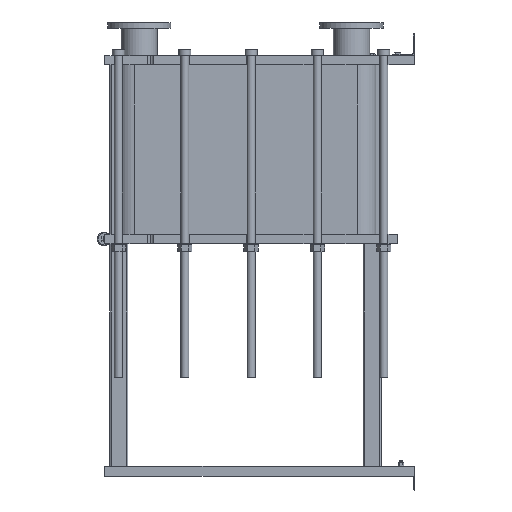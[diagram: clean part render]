
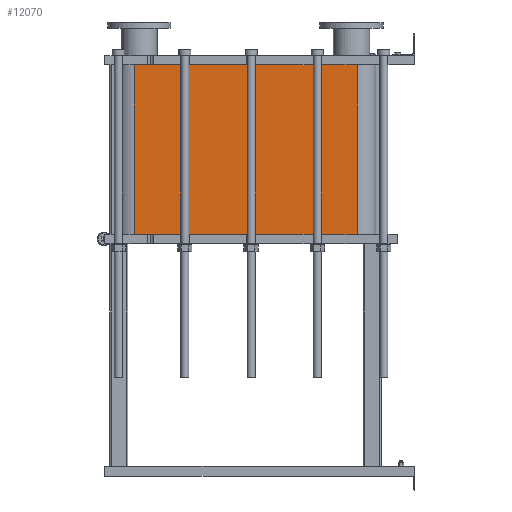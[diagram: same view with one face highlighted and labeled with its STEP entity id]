
A CAD part, left-side view. The second image highlights one B-rep face of the part: STEP entity #12070.
In plain terms, the highlighted planar face has unit normal (-1, 0, 0).
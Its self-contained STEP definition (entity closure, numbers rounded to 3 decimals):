
#1064=LINE('',#21140,#2164);
#1065=LINE('',#21144,#2165);
#1066=LINE('',#21146,#2166);
#1067=LINE('',#21147,#2167);
#2164=VECTOR('',#15790,10.);
#2165=VECTOR('',#15795,10.);
#2166=VECTOR('',#15796,10.);
#2167=VECTOR('',#15797,10.);
#3304=FACE_OUTER_BOUND('',#4091,.T.);
#4091=EDGE_LOOP('',(#9793,#9794,#9795,#9796));
#5677=VERTEX_POINT('',#21137);
#5678=VERTEX_POINT('',#21139);
#5679=VERTEX_POINT('',#21143);
#5680=VERTEX_POINT('',#21145);
#7118=EDGE_CURVE('',#5678,#5677,#1064,.T.);
#7120=EDGE_CURVE('',#5677,#5679,#1065,.T.);
#7121=EDGE_CURVE('',#5680,#5679,#1066,.T.);
#7122=EDGE_CURVE('',#5680,#5678,#1067,.T.);
#9793=ORIENTED_EDGE('',*,*,#7120,.T.);
#9794=ORIENTED_EDGE('',*,*,#7121,.F.);
#9795=ORIENTED_EDGE('',*,*,#7122,.T.);
#9796=ORIENTED_EDGE('',*,*,#7118,.T.);
#11441=PLANE('',#13191);
#12070=ADVANCED_FACE('',(#3304),#11441,.T.);
#13191=AXIS2_PLACEMENT_3D('',#21142,#15793,#15794);
#15790=DIRECTION('',(0.,0.,-1.));
#15793=DIRECTION('center_axis',(-1.,0.,0.));
#15794=DIRECTION('ref_axis',(0.,1.,0.));
#15795=DIRECTION('',(0.,-1.,0.));
#15796=DIRECTION('',(0.,0.,-1.));
#15797=DIRECTION('',(0.,1.,0.));
#21137=CARTESIAN_POINT('',(-248.152,1243.818,-752.1));
#21139=CARTESIAN_POINT('',(-248.152,1243.818,0.));
#21140=CARTESIAN_POINT('',(-248.152,1243.818,0.));
#21142=CARTESIAN_POINT('Origin',(-248.152,251.818,0.));
#21143=CARTESIAN_POINT('',(-248.152,251.818,-752.1));
#21144=CARTESIAN_POINT('',(-248.152,499.818,-752.1));
#21145=CARTESIAN_POINT('',(-248.152,251.818,0.));
#21146=CARTESIAN_POINT('',(-248.152,251.818,0.));
#21147=CARTESIAN_POINT('',(-248.152,251.818,0.));
